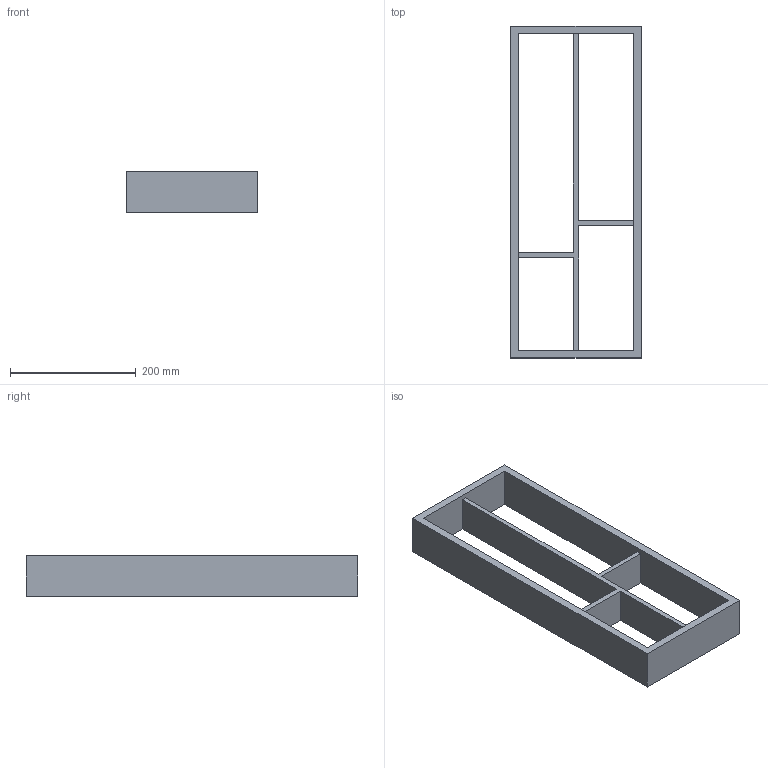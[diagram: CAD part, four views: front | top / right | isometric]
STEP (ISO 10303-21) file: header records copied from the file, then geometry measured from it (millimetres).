
FILE_DESCRIPTION (( 'STEP AP214' ), '1' );
FILE_NAME ('Vario Multi NL550_B300_16 mm_Buche.step', '2010-10-07T06:24:12', ( 'grass' ), ( '' ), 'SwSTEP 2.0', 'SolidWorks 2010', '' );
FILE_SCHEMA (( 'AUTOMOTIVE_DESIGN' ));
Length unit declared in the file: millimetre
Products named in the file (1): Vario Multi NL550_B300_16 mm_Buche
Bounding box: 208 x 529 x 65 mm (x, y, z)
Volume: 1422816 mm3; surface area: 305398 mm2
Topology: 1 solids, 1 shells, 19 faces, 60 edges, 40 vertices
Faces by surface type: plane 19
Entity records: 704 total; most frequent: ORIENTED_EDGE 120, CARTESIAN_POINT 120, DIRECTION 100, EDGE_CURVE 60, VECTOR 60, LINE 60, VERTEX_POINT 40, EDGE_LOOP 24
